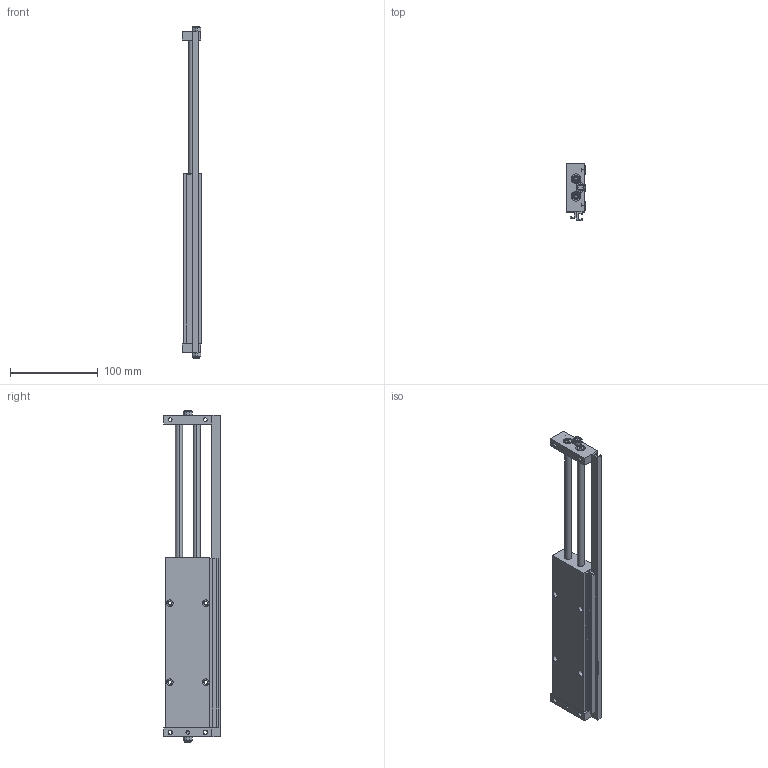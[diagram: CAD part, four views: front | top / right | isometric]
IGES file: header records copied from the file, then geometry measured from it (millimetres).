
Global section: file name: No Iges File Name specified; native system: Autodesk Inventor 2011; preprocessor: AutoDesk Inventor Iges Exporter R2011; author: nozzaem1; date: 20110516.134037; units: millimetre
Bounding box: 22 x 64.6 x 378 mm (x, y, z)
Volume: 252494 mm3; surface area: 92766.4 mm2
Topology: 8 solids, 8 shells, 295 faces, 686 edges, 447 vertices
Faces by surface type: plane 122, bspline 95, cylinder 38, revolution 20, cone 20
